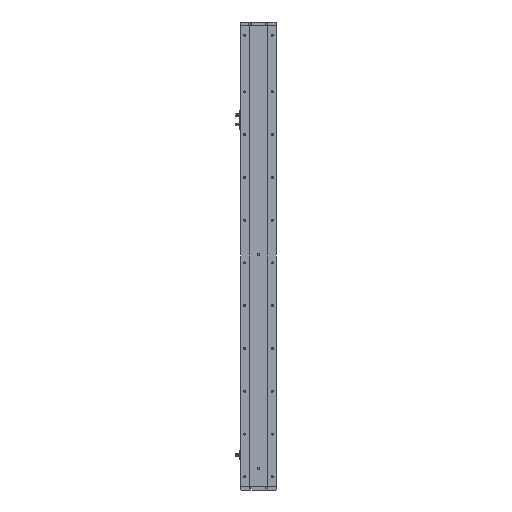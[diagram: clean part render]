
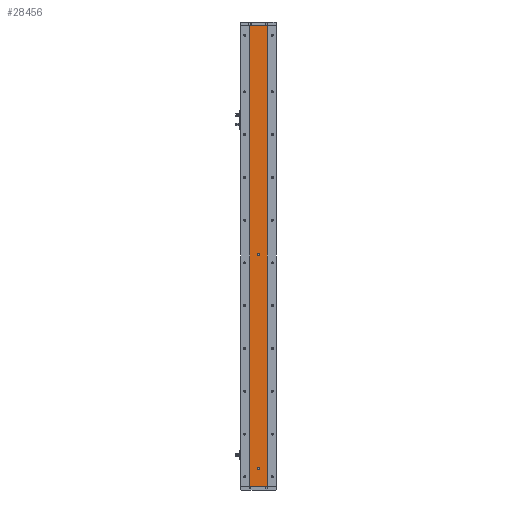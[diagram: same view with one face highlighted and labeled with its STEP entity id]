
A CAD part, left-side view. The second image highlights one B-rep face of the part: STEP entity #28456.
In plain terms, the highlighted planar face has unit normal (-1, 0, 0).
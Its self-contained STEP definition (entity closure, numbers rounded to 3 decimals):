
#611 = LINE ( 'NONE', #4087, #29201 ) ;
#622 = AXIS2_PLACEMENT_3D ( 'NONE', #1048, #20431, #3814 ) ;
#1048 = CARTESIAN_POINT ( 'NONE',  ( -18.926, 0., 50. ) ) ;
#1219 = ORIENTED_EDGE ( 'NONE', *, *, #17154, .T. ) ;
#1614 = VERTEX_POINT ( 'NONE', #21908 ) ;
#1618 = AXIS2_PLACEMENT_3D ( 'NONE', #10122, #29464, #12919 ) ;
#2048 = EDGE_CURVE ( 'NONE', #22101, #5763, #27063, .T. ) ;
#2362 = EDGE_LOOP ( 'NONE', ( #1219, #2463, #8377, #11710 ) ) ;
#2392 = EDGE_CURVE ( 'NONE', #16475, #26646, #27028, .T. ) ;
#2463 = ORIENTED_EDGE ( 'NONE', *, *, #26500, .F. ) ;
#3814 = DIRECTION ( 'NONE',  ( 0., 0., 1. ) ) ;
#4087 = CARTESIAN_POINT ( 'NONE',  ( -18.926, 24.785, 1293. ) ) ;
#4392 = ORIENTED_EDGE ( 'NONE', *, *, #9933, .F. ) ;
#4959 = EDGE_CURVE ( 'NONE', #31835, #1614, #611, .T. ) ;
#5406 = VERTEX_POINT ( 'NONE', #9082 ) ;
#5417 = LINE ( 'NONE', #7456, #34000 ) ;
#5520 = LINE ( 'NONE', #15196, #12924 ) ;
#5763 = VERTEX_POINT ( 'NONE', #35689 ) ;
#6089 = EDGE_CURVE ( 'NONE', #5763, #22101, #31205, .T. ) ;
#6374 = EDGE_LOOP ( 'NONE', ( #4392, #18386 ) ) ;
#6737 = CARTESIAN_POINT ( 'NONE',  ( -18.926, 0., 650. ) ) ;
#7267 = DIRECTION ( 'NONE',  ( 1., 0., 0. ) ) ;
#7456 = CARTESIAN_POINT ( 'NONE',  ( -18.926, -24.785, 1293. ) ) ;
#7982 = CARTESIAN_POINT ( 'NONE',  ( -18.926, 0., 53. ) ) ;
#8377 = ORIENTED_EDGE ( 'NONE', *, *, #4959, .F. ) ;
#9082 = CARTESIAN_POINT ( 'NONE',  ( -18.926, -24.785, 0. ) ) ;
#9509 = DIRECTION ( 'NONE',  ( 0., 0., 1. ) ) ;
#9933 = EDGE_CURVE ( 'NONE', #26646, #16475, #16260, .T. ) ;
#10122 = CARTESIAN_POINT ( 'NONE',  ( -18.926, 0., 50. ) ) ;
#10808 = LINE ( 'NONE', #15153, #30274 ) ;
#11710 = ORIENTED_EDGE ( 'NONE', *, *, #24962, .T. ) ;
#12375 = DIRECTION ( 'NONE',  ( 0., -1., 0. ) ) ;
#12919 = DIRECTION ( 'NONE',  ( 0., 0., 1. ) ) ;
#12924 = VECTOR ( 'NONE', #23568, 1000. ) ;
#12933 = ORIENTED_EDGE ( 'NONE', *, *, #6089, .F. ) ;
#14512 = ORIENTED_EDGE ( 'NONE', *, *, #2048, .F. ) ;
#15106 = CARTESIAN_POINT ( 'NONE',  ( -18.926, 0., 650. ) ) ;
#15153 = CARTESIAN_POINT ( 'NONE',  ( -18.926, 24.785, 0. ) ) ;
#15166 = AXIS2_PLACEMENT_3D ( 'NONE', #15106, #34458, #17884 ) ;
#15177 = EDGE_LOOP ( 'NONE', ( #14512, #12933 ) ) ;
#15196 = CARTESIAN_POINT ( 'NONE',  ( -18.926, 24.785, 1293. ) ) ;
#16260 = CIRCLE ( 'NONE', #15166, 3. ) ;
#16475 = VERTEX_POINT ( 'NONE', #34671 ) ;
#16834 = CARTESIAN_POINT ( 'NONE',  ( -18.926, 24.785, 1293. ) ) ;
#17154 = EDGE_CURVE ( 'NONE', #25845, #5406, #10808, .T. ) ;
#17189 = CARTESIAN_POINT ( 'NONE',  ( -18.926, 24.785, 0. ) ) ;
#17282 = FACE_OUTER_BOUND ( 'NONE', #2362, .T. ) ;
#17884 = DIRECTION ( 'NONE',  ( 0., 0., 1. ) ) ;
#18386 = ORIENTED_EDGE ( 'NONE', *, *, #2392, .F. ) ;
#20431 = DIRECTION ( 'NONE',  ( -1., 0., 0. ) ) ;
#20968 = PLANE ( 'NONE',  #29903 ) ;
#21368 = AXIS2_PLACEMENT_3D ( 'NONE', #6737, #26120, #9509 ) ;
#21908 = CARTESIAN_POINT ( 'NONE',  ( -18.926, -24.785, 1293. ) ) ;
#22101 = VERTEX_POINT ( 'NONE', #7982 ) ;
#23568 = DIRECTION ( 'NONE',  ( 0., 0., -1. ) ) ;
#23798 = FACE_BOUND ( 'NONE', #15177, .T. ) ;
#23869 = CARTESIAN_POINT ( 'NONE',  ( -18.926, 24.785, 1293. ) ) ;
#24962 = EDGE_CURVE ( 'NONE', #31835, #25845, #5520, .T. ) ;
#25845 = VERTEX_POINT ( 'NONE', #17189 ) ;
#26120 = DIRECTION ( 'NONE',  ( -1., 0., 0. ) ) ;
#26252 = DIRECTION ( 'NONE',  ( 0., -1., 0. ) ) ;
#26500 = EDGE_CURVE ( 'NONE', #1614, #5406, #5417, .T. ) ;
#26646 = VERTEX_POINT ( 'NONE', #30282 ) ;
#26668 = DIRECTION ( 'NONE',  ( 0., 0., -1. ) ) ;
#27028 = CIRCLE ( 'NONE', #21368, 3. ) ;
#27063 = CIRCLE ( 'NONE', #1618, 3. ) ;
#27085 = DIRECTION ( 'NONE',  ( 0., 0., -1. ) ) ;
#28456 = ADVANCED_FACE ( 'NONE', ( #31970, #23798, #17282 ), #20968, .F. ) ;
#29201 = VECTOR ( 'NONE', #26252, 1000. ) ;
#29464 = DIRECTION ( 'NONE',  ( -1., 0., 0. ) ) ;
#29903 = AXIS2_PLACEMENT_3D ( 'NONE', #23869, #7267, #26668 ) ;
#30274 = VECTOR ( 'NONE', #12375, 1000. ) ;
#30282 = CARTESIAN_POINT ( 'NONE',  ( -18.926, 0., 653. ) ) ;
#31205 = CIRCLE ( 'NONE', #622, 3. ) ;
#31835 = VERTEX_POINT ( 'NONE', #16834 ) ;
#31970 = FACE_BOUND ( 'NONE', #6374, .T. ) ;
#34000 = VECTOR ( 'NONE', #27085, 1000. ) ;
#34458 = DIRECTION ( 'NONE',  ( -1., 0., 0. ) ) ;
#34671 = CARTESIAN_POINT ( 'NONE',  ( -18.926, 0., 647. ) ) ;
#35689 = CARTESIAN_POINT ( 'NONE',  ( -18.926, 0., 47. ) ) ;
